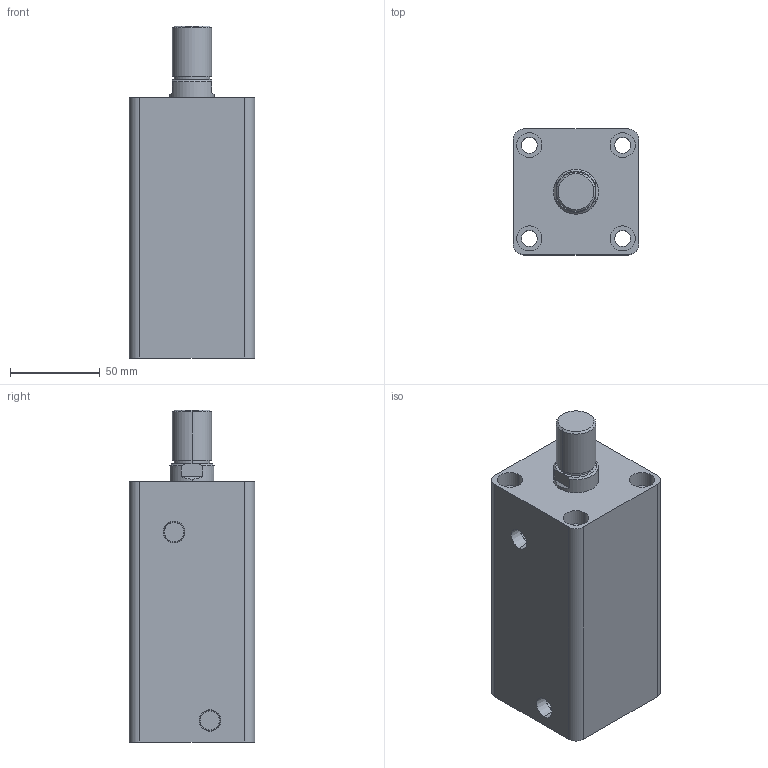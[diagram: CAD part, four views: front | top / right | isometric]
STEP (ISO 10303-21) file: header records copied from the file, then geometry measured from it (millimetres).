
FILE_DESCRIPTION (( 'STEP AP203' ), '1' );
FILE_NAME ('HTB-SD40-90W.STEP', '2019-10-07T06:57:51', ( '微软用户' ), ( '微软中国' ), 'SwSTEP 2.0', 'SolidWorks 2012', '' );
FILE_SCHEMA (( 'CONFIG_CONTROL_DESIGN' ));
Length unit declared in the file: millimetre
Products named in the file (3): HTB-SD40-90掛极; HTB-SD40-90W活塞杆; HTB-SD40-90W
Assembly tree (2 placements, depth 2):
  HTB-SD40-90W
    HTB-SD40-90掛极
    HTB-SD40-90W活塞杆
Bounding box: 70 x 70 x 185 mm (x, y, z)
Volume: 607681.7 mm3; surface area: 100557.9 mm2
Topology: 2 solids, 2 shells, 85 faces, 186 edges, 122 vertices
Faces by surface type: cylinder 44, plane 29, cone 8, torus 4
Entity records: 2709 total; most frequent: DIRECTION 466, CARTESIAN_POINT 426, ORIENTED_EDGE 372, AXIS2_PLACEMENT_3D 198, EDGE_CURVE 186, VERTEX_POINT 122, EDGE_LOOP 110, CIRCLE 108
